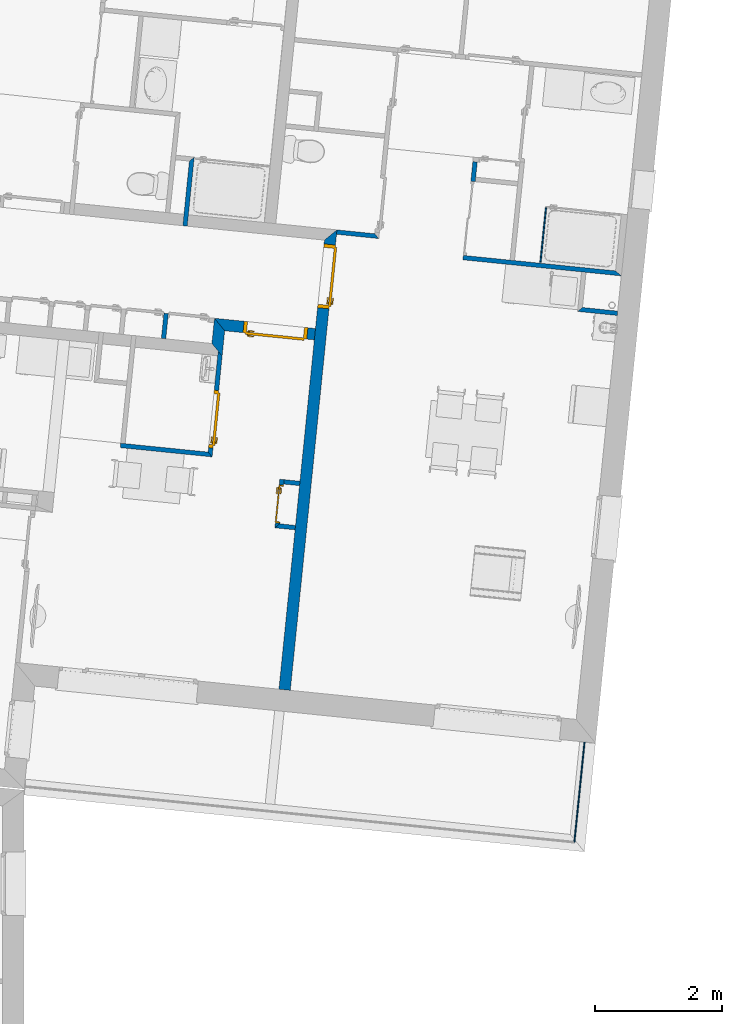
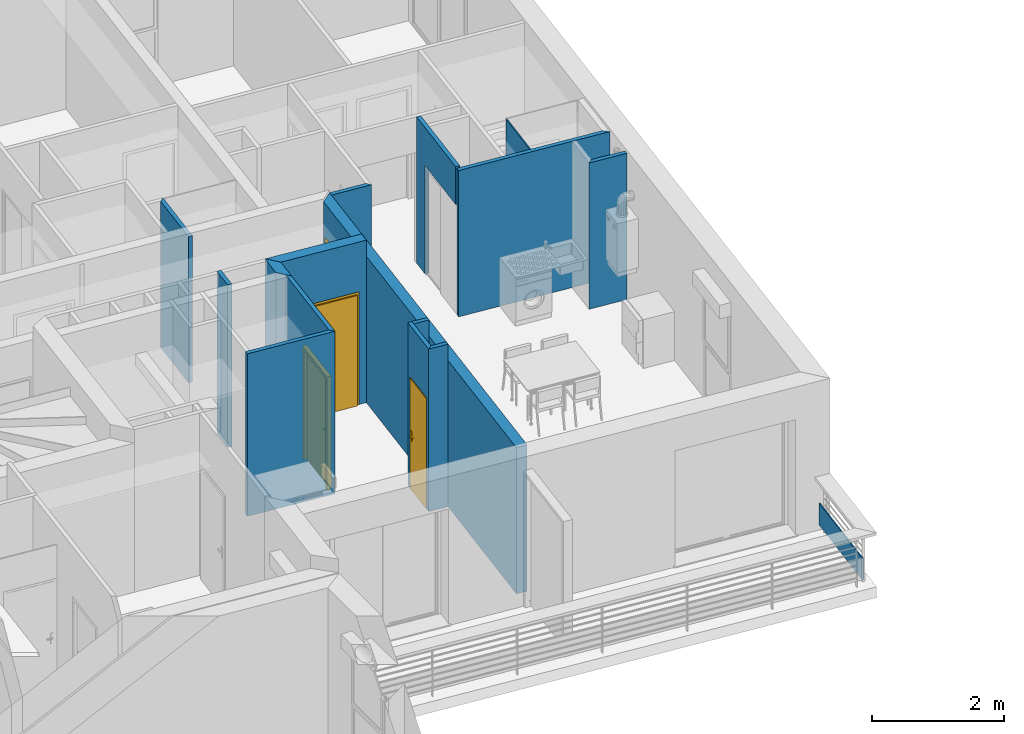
# One storey, part 55 of 164: 16 walls, 4 doors, 5 openings.
"""IFC2X3 building model written with IfcOpenShell, lengths in millimetres."""

from ifc_helpers import new_model, entity, si_unit, converted_unit, derived_unit, money_unit, direction, frame, origin_with_axes, origin_2d_with_axis, place, context, subcontext, project, spatial, polyline, rectangle, outline, extrude, faceted_brep, source, transform, mapped, material, layer, layer_set, layer_usage, type_object, element, fill, save


model = new_model("IFC2X3")

# Units and contexts
model_context = context("Model", 3, precision=0.01, world=origin_with_axes(), true_north=direction((0.0, 1.0)))
body_context = subcontext(model_context, "Body", "Model", "MODEL_VIEW")
ifc_project = project(units=[si_unit("LENGTHUNIT", "METRE", prefix="MILLI"), si_unit("AREAUNIT", "SQUARE_METRE"), si_unit("VOLUMEUNIT", "CUBIC_METRE"), converted_unit("PLANEANGLEUNIT", "DEGREE", entity("IfcPlaneAngleMeasure", 0.0174532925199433), si_unit("PLANEANGLEUNIT", "RADIAN"), dimensions=[0, 0, 0, 0, 0, 0, 0]), money_unit("USD"), converted_unit("TIMEUNIT", "Year", entity("IfcTimeMeasure", 31557600.0), si_unit("TIMEUNIT", "SECOND"), dimensions=[0, 0, 1, 0, 0, 0, 0]), si_unit("MASSUNIT", "GRAM", prefix="KILO"), si_unit("THERMODYNAMICTEMPERATUREUNIT", "DEGREE_CELSIUS"), si_unit("LUMINOUSINTENSITYUNIT", "LUMEN"), si_unit("ENERGYUNIT", "JOULE", prefix="MEGA"), derived_unit("THERMALCONDUCTANCEUNIT", [(si_unit("POWERUNIT", "WATT"), 1), (si_unit("LENGTHUNIT", "METRE"), -1), (si_unit("THERMODYNAMICTEMPERATUREUNIT", "KELVIN"), -1)]), derived_unit("SPECIFICHEATCAPACITYUNIT", [(si_unit("ENERGYUNIT", "JOULE"), 1), (si_unit("MASSUNIT", "GRAM", prefix="KILO"), -1), (si_unit("THERMODYNAMICTEMPERATUREUNIT", "KELVIN"), -1)]), derived_unit("MASSDENSITYUNIT", [(si_unit("MASSUNIT", "GRAM", prefix="KILO"), 1), (si_unit("VOLUMEUNIT", "CUBIC_METRE"), -1)])], contexts=[model_context])

# Site, building, storey
site_placement = place(None, origin_with_axes())
site = spatial("IfcSite", under=ifc_project, at=site_placement, Name="Site", CompositionType="ELEMENT")
building_placement = place(site_placement, origin_with_axes())
building = spatial("IfcBuilding", under=site, at=building_placement, Name="Bâtiment", CompositionType="ELEMENT")
storey_placement = place(building_placement, frame((0.0, 0.0, 5750.0), z_axis=(0.0, 0.0, 1.0), x_axis=(1.0, 0.0, 0.0)))
storey = spatial("IfcBuildingStorey", under=building, at=storey_placement, Name="Etage1", CompositionType="ELEMENT", Elevation=5750.0)

# Wall, opening, door
ifc_material_1 = material(Name="Parpaing 314940890")
ifc_layer_1 = layer(ifc_material_1, 180.0, ventilated="UNKNOWN")
ifc_layer_set_1 = layer_set([ifc_layer_1], Name="Beton  18 0018356637")
ifc_layer_usage_1 = layer_usage(ifc_layer_set_1, "AXIS2", "NEGATIVE", 0.0)
wall_type_1 = type_object("IfcWallType", Name="Beton  18 0018356637 180", PredefinedType="NOTDEFINED")
wall_1_placement = place(storey_placement, frame((2234581.547925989, -613207.4686264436, 0.0), z_axis=(0.0, 0.0, 1.0), x_axis=(-0.1008361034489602, -0.9949030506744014, 0.0)))
wall_1 = element("IfcWallStandardCase", 1, at=wall_1_placement, inside=storey, type_object=wall_type_1, material=ifc_layer_usage_1, Name="Mur-142", context=body_context, shape_type="SweptSolid", body=[
    extrude(outline(polyline([(179.9516873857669, -179.99999999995), (7289.65066235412, -179.99999999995), (7289.6989906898, -1.13686837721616e-10), (0.0, 0.0), (179.9516873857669, -179.99999999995)])), origin_with_axes(), (0.0, 0.0, 1.0), 2700.0),
])
opening_1_placement = place(wall_1_placement, frame((745.1280166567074, 0.0, 0.0), z_axis=(0.0, 0.0, 1.0), x_axis=(1.0, 0.0, 0.0)))
opening_1 = element("IfcOpeningElement", 2, at=opening_1_placement, cuts=wall_1, Name="Por-279", context=body_context, shape_type="SweptSolid", body=[
    extrude(rectangle(XDim=1010.00001192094, YDim=2080.0, at=origin_2d_with_axis()), frame((-5.960473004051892e-06, -179.99999999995, 1040.0), z_axis=(0.0, -1.0, 0.0), x_axis=(-1.0, 0.0, 0.0)), (0.0, 0.0, -1.0), 360.0),
])
door_style = type_object("IfcDoorStyle", Name="Porte_1v", ConstructionType="NOTDEFINED", OperationType="NOTDEFINED", ParameterTakesPrecedence=False, Sizeable=False)
shared_shape_1 = source(origin_with_axes(), body_context, "Body", "Brep", [
    faceted_brep([(-504.9999999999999, 0.0, 0.0), (-504.9999999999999, 0.0, 2080.0), (504.9999999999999, 0.0, 2080.0), (504.9999999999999, 0.0, 0.0), (464.9999999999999, 0.0, 0.0), (464.9999999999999, 0.0, 2040.0), (-464.9999999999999, 0.0, 2040.0), (-464.9999999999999, 0.0, 0.0), (-504.9999999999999, -180.0, 0.0), (-504.9999999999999, -180.0, 2080.0), (504.9999999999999, -180.0, 2080.0), (504.9999999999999, -180.0, 0.0), (449.9999999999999, -180.0, 0.0), (449.9999999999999, -15.0, 0.0), (464.9999999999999, -15.0, 0.0), (464.9999999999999, -15.0, 2040.0), (-464.9999999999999, -15.0, 2040.0), (-464.9999999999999, -15.0, 0.0), (-449.9999999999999, -15.0, 0.0), (-449.9999999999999, -180.0, 0.0), (-449.9999999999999, -180.0, 2025.0), (449.9999999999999, -180.0, 2025.0), (449.9999999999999, -15.0, 2025.0), (-449.9999999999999, -15.0, 2025.0)], [[[0, 1, 2, 3, 4, 5, 6, 7]], [[8, 9, 1, 0]], [[9, 10, 2, 1]], [[10, 11, 3, 2]], [[3, 11, 12, 13, 14, 4]], [[5, 4, 14, 15]], [[6, 5, 15, 16]], [[7, 6, 16, 17]], [[0, 7, 17, 18, 19, 8]], [[19, 20, 21, 12, 11, 10, 9, 8]], [[22, 13, 12, 21]], [[17, 16, 15, 14, 13, 22, 23, 18]], [[18, 23, 20, 19]], [[23, 22, 21, 20]]]),
    faceted_brep([(399.9999999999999, -15.0, 900.0), (399.9999999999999, -15.0, 1100.0), (439.9999999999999, -15.0, 1100.0), (439.9999999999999, -15.0, 900.0), (399.9999999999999, -25.0, 900.0), (399.9999999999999, -25.0, 1100.0), (439.9999999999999, -25.0, 1100.0), (439.9999999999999, -25.0, 900.0)], [[[0, 1, 2, 3]], [[0, 4, 5, 1]], [[1, 5, 6, 2]], [[2, 6, 7, 3]], [[3, 7, 4, 0]], [[7, 6, 5, 4]]]),
    faceted_brep([(329.9999999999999, -25.0, 1000.0), (329.9999999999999, -25.0, 1020.0), (429.9999999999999, -25.0, 1020.0), (429.9999999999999, -25.0, 1000.0), (329.9999999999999, -44.99999999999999, 1000.0), (329.9999999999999, -44.99999999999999, 1020.0), (429.9999999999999, -44.99999999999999, 1020.0), (429.9999999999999, -44.99999999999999, 1000.0)], [[[0, 1, 2, 3]], [[0, 4, 5, 1]], [[1, 5, 6, 2]], [[2, 6, 7, 3]], [[3, 7, 4, 0]], [[7, 6, 5, 4]]]),
    faceted_brep([(399.9999999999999, 34.99999999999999, 900.0), (399.9999999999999, 34.99999999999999, 1100.0), (439.9999999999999, 34.99999999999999, 1100.0), (439.9999999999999, 34.99999999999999, 900.0), (399.9999999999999, 25.0, 900.0), (399.9999999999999, 25.0, 1100.0), (439.9999999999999, 25.0, 1100.0), (439.9999999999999, 25.0, 900.0)], [[[0, 1, 2, 3]], [[0, 4, 5, 1]], [[1, 5, 6, 2]], [[2, 6, 7, 3]], [[3, 7, 4, 0]], [[7, 6, 5, 4]]]),
    faceted_brep([(329.9999999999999, 55.0, 1000.0), (329.9999999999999, 55.0, 1020.0), (429.9999999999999, 55.0, 1020.0), (429.9999999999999, 55.0, 1000.0), (329.9999999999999, 34.99999999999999, 1000.0), (329.9999999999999, 34.99999999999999, 1020.0), (429.9999999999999, 34.99999999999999, 1020.0), (429.9999999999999, 34.99999999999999, 1000.0)], [[[0, 1, 2, 3]], [[0, 4, 5, 1]], [[1, 5, 6, 2]], [[2, 6, 7, 3]], [[3, 7, 4, 0]], [[7, 6, 5, 4]]]),
    faceted_brep([(464.9999999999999, 25.0, 0.0), (464.9999999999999, -15.0, 0.0), (-464.9999999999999, -15.0, 0.0), (-464.9999999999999, 25.0, 0.0), (464.9999999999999, 25.0, 2040.0), (464.9999999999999, -15.0, 2040.0), (-464.9999999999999, -15.0, 2040.0), (-464.9999999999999, 25.0, 2040.0)], [[[0, 1, 2, 3]], [[4, 5, 1, 0]], [[1, 5, 6, 2]], [[3, 2, 6, 7]], [[0, 3, 7, 4]], [[7, 6, 5, 4]]]),
])
door_1_placement = place(opening_1_placement, frame((-465.0000000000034, 0.0, 0.0), z_axis=(0.0, 0.0, 1.0), x_axis=(1.0, 0.0, 0.0)))
door_1 = element("IfcDoor", 3, at=door_1_placement, inside=storey, type_object=door_style, Name="Por-279", OverallHeight=2040.0, OverallWidth=930.0, context=body_context, shape_type="MappedRepresentation", body=[
    mapped(shared_shape_1, transform((464.9999999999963, 1.13686837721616e-10, 0.0))),
])
fill(opening_1, door_1)

# Wall
ifc_layer_usage_2 = layer_usage(ifc_layer_set_1, "AXIS2", "NEGATIVE", 0.0)
wall_2_placement = place(storey_placement, frame((2232611.91833897, -614997.468755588, 0.0), z_axis=(0.0, 0.0, 1.0), x_axis=(0.1011032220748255, 0.9948759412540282, 0.0)))
element("IfcWallStandardCase", 4, at=wall_2_placement, inside=storey, type_object=wall_type_1, material=ifc_layer_usage_2, Name="Mur-142", context=body_context, shape_type="SweptSolid", body=[
    extrude(outline(polyline([(-179.9516887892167, -180.0000000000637), (219.9639479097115, -179.99999999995), (399.9639479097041, 0.0), (0.0, 0.0), (-179.9516887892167, -180.0000000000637)])), origin_with_axes(), (0.0, 0.0, 1.0), 3000.0),
])

# Wall, opening, door
ifc_layer_usage_3 = layer_usage(ifc_layer_set_1, "AXIS2", "NEGATIVE", 0.0)
wall_3_placement = place(storey_placement, frame((2232652.355982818, -614599.5542464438, 0.0), z_axis=(0.0, 0.0, 1.0), x_axis=(0.9948759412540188, -0.1011032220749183, 0.0)))
wall_3 = element("IfcWallStandardCase", 5, at=wall_3_placement, inside=storey, type_object=wall_type_1, material=ifc_layer_usage_3, Name="Mur-142", context=body_context, shape_type="SweptSolid", body=[
    extrude(outline(polyline([(179.99999999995, -179.9999999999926), (1599.034845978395, -179.9999999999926), (1598.986517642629, 0.0), (-1.13686837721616e-10, 0.0), (179.99999999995, -179.9999999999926)])), origin_with_axes(), (0.0, 0.0, 1.0), 3000.0),
])
opening_2_placement = place(wall_3_placement, frame((974.396814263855, 0.0, 0.0), z_axis=(0.0, 0.0, 1.0), x_axis=(1.0, 0.0, 0.0)))
opening_2 = element("IfcOpeningElement", 6, at=opening_2_placement, cuts=wall_3, Name="Por-279", context=body_context, shape_type="SweptSolid", body=[
    extrude(rectangle(XDim=1010.00001192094, YDim=2080.0, at=origin_2d_with_axis()), frame((5.960373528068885e-06, 180.0000000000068, 1040.0), z_axis=(0.0, 1.0, 0.0), x_axis=(1.0, 0.0, 0.0)), (0.0, 0.0, -1.0), 360.0),
])
door_2_placement = place(opening_2_placement, frame((464.9999999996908, 0.0, 0.0), z_axis=(0.0, 0.0, 1.0), x_axis=(-1.0, 0.0, 0.0)))
door_2 = element("IfcDoor", 7, at=door_2_placement, inside=storey, type_object=door_style, Name="Por-279", OverallHeight=2040.0, OverallWidth=930.0, context=body_context, shape_type="MappedRepresentation", body=[
    mapped(shared_shape_1, transform((465.0000000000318, 180.0000000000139, 0.0))),
])
fill(opening_2, door_2)

ifc_material_2 = material(Name="Hachure solide 268963992")
ifc_layer_2 = layer(ifc_material_2, 70.0, ventilated="UNKNOWN")
ifc_layer_set_2 = layer_set([ifc_layer_2], Name="Cloison 70 0826278243")
ifc_layer_usage_4 = layer_usage(ifc_layer_set_2, "AXIS2", "NEGATIVE", 0.0)
wall_type_2 = type_object("IfcWallType", Name="Cloison 70 0826278243 70", PredefinedType="NOTDEFINED")
wall_4_placement = place(storey_placement, frame((2233750.635914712, -617141.1380950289, 0.0), z_axis=(0.0, 0.0, 1.0), x_axis=(-0.1005375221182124, -0.9949332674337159, 0.0)))
wall_4 = element("IfcWallStandardCase", 8, at=wall_4_placement, inside=storey, type_object=wall_type_2, material=ifc_layer_usage_4, Name="Mur-153", context=body_context, shape_type="SweptSolid", body=[
    extrude(outline(polyline([(0.0, -70.00000000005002), (769.6332433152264, -69.99999999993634), (699.6332433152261, 0.0), (0.0, 0.0), (0.0, -70.00000000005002)])), origin_with_axes(), (0.0, 0.0, 1.0), 3000.0),
])
opening_3_placement = place(wall_4_placement, frame((388.1226217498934, 1.13686837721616e-10, 0.0), z_axis=(0.0, 0.0, 1.0), x_axis=(1.0, 0.0, 0.0)))
opening_3 = element("IfcOpeningElement", 9, at=opening_3_placement, cuts=wall_4, Name="Por-274", context=body_context, shape_type="SweptSolid", body=[
    extrude(rectangle(XDim=599.9999999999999, YDim=2050.0, at=origin_2d_with_axis()), frame((0.0, 70.00000000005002, 1025.0), z_axis=(0.0, 1.0, 0.0), x_axis=(1.0, 0.0, 0.0)), (0.0, 0.0, -1.0), 140.0),
])
shared_shape_2 = source(origin_with_axes(), body_context, "Body", "Brep", [
    faceted_brep([(-300.0, 0.0, 0.0), (-300.0, 0.0, 2050.0), (300.0, 0.0, 2050.0), (300.0, 0.0, 0.0), (290.0, 0.0, 0.0), (290.0, 0.0, 2040.0), (-290.0, 0.0, 2040.0), (-290.0, 0.0, 0.0), (-300.0, -70.0, 0.0), (-300.0, -70.0, 2050.0), (300.0, -70.0, 2050.0), (300.0, -70.0, 0.0), (279.9999999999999, -70.0, 0.0), (279.9999999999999, -15.0, 0.0), (290.0, -15.0, 0.0), (290.0, -15.0, 2040.0), (-290.0, -15.0, 2040.0), (-290.0, -15.0, 0.0), (-279.9999999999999, -15.0, 0.0), (-279.9999999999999, -70.0, 0.0), (-279.9999999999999, -70.0, 2030.0), (279.9999999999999, -70.0, 2030.0), (279.9999999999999, -15.0, 2030.0), (-279.9999999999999, -15.0, 2030.0)], [[[0, 1, 2, 3, 4, 5, 6, 7]], [[8, 9, 1, 0]], [[9, 10, 2, 1]], [[10, 11, 3, 2]], [[3, 11, 12, 13, 14, 4]], [[5, 4, 14, 15]], [[6, 5, 15, 16]], [[7, 6, 16, 17]], [[0, 7, 17, 18, 19, 8]], [[19, 20, 21, 12, 11, 10, 9, 8]], [[22, 13, 12, 21]], [[17, 16, 15, 14, 13, 22, 23, 18]], [[18, 23, 20, 19]], [[23, 22, 21, 20]]]),
    faceted_brep([(224.9999999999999, -15.0, 900.0), (224.9999999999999, -15.0, 1100.0), (264.9999999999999, -15.0, 1100.0), (264.9999999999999, -15.0, 900.0), (224.9999999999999, -25.0, 900.0), (224.9999999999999, -25.0, 1100.0), (264.9999999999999, -25.0, 1100.0), (264.9999999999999, -25.0, 900.0)], [[[0, 1, 2, 3]], [[0, 4, 5, 1]], [[1, 5, 6, 2]], [[2, 6, 7, 3]], [[3, 7, 4, 0]], [[7, 6, 5, 4]]]),
    faceted_brep([(154.9999999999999, -25.0, 1000.0), (154.9999999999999, -25.0, 1020.0), (254.9999999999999, -25.0, 1020.0), (254.9999999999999, -25.0, 1000.0), (154.9999999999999, -45.0, 1000.0), (154.9999999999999, -45.0, 1020.0), (254.9999999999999, -45.0, 1020.0), (254.9999999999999, -45.0, 1000.0)], [[[0, 1, 2, 3]], [[0, 4, 5, 1]], [[1, 5, 6, 2]], [[2, 6, 7, 3]], [[3, 7, 4, 0]], [[7, 6, 5, 4]]]),
    faceted_brep([(224.9999999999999, 15.0, 900.0), (224.9999999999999, 15.0, 1100.0), (264.9999999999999, 15.0, 1100.0), (264.9999999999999, 15.0, 900.0), (224.9999999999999, 5.000000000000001, 900.0), (224.9999999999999, 5.000000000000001, 1100.0), (264.9999999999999, 5.000000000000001, 1100.0), (264.9999999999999, 5.000000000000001, 900.0)], [[[0, 1, 2, 3]], [[0, 4, 5, 1]], [[1, 5, 6, 2]], [[2, 6, 7, 3]], [[3, 7, 4, 0]], [[7, 6, 5, 4]]]),
    faceted_brep([(154.9999999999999, 35.0, 1000.0), (154.9999999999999, 35.0, 1020.0), (254.9999999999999, 35.0, 1020.0), (254.9999999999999, 35.0, 1000.0), (154.9999999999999, 15.0, 1000.0), (154.9999999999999, 15.0, 1020.0), (254.9999999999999, 15.0, 1020.0), (254.9999999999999, 15.0, 1000.0)], [[[0, 1, 2, 3]], [[0, 4, 5, 1]], [[1, 5, 6, 2]], [[2, 6, 7, 3]], [[3, 7, 4, 0]], [[7, 6, 5, 4]]]),
    faceted_brep([(290.0, 5.000000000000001, 0.0), (290.0, -15.0, 0.0), (-290.0, -15.0, 0.0), (-290.0, 5.000000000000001, 0.0), (290.0, 5.000000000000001, 2040.0), (290.0, -15.0, 2040.0), (-290.0, -15.0, 2040.0), (-290.0, 5.000000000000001, 2040.0)], [[[0, 1, 2, 3]], [[4, 5, 1, 0]], [[1, 5, 6, 2]], [[3, 2, 6, 7]], [[0, 3, 7, 4]], [[7, 6, 5, 4]]]),
])
door_3_placement = place(opening_3_placement, frame((289.9999999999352, 3.410605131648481e-10, 0.0), z_axis=(0.0, 0.0, 1.0), x_axis=(-1.0, 0.0, 0.0)))
door_3 = element("IfcDoor", 10, at=door_3_placement, inside=storey, type_object=door_style, Name="Por-274", OverallHeight=2040.0, OverallWidth=580.0, context=body_context, shape_type="MappedRepresentation", body=[
    mapped(shared_shape_2, transform((289.9999999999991, 70.00000000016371, 0.0))),
])
fill(opening_3, door_3)

# Walls
ifc_layer_usage_5 = layer_usage(ifc_layer_set_2, "AXIS2", "NEGATIVE", 70.0)
wall_5_placement = place(storey_placement, frame((2238370.880852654, -614492.3648829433, 0.0), z_axis=(0.0, 0.0, 1.0), x_axis=(0.9948759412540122, -0.1011032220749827, 0.0)))
element("IfcWallStandardCase", 11, at=wall_5_placement, inside=storey, type_object=wall_type_2, material=ifc_layer_usage_5, Name="Mur-149", context=body_context, shape_type="SweptSolid", body=[
    extrude(outline(polyline([(0.0, 0.0), (628.051133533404, 0.0), (628.0511335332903, 69.99999999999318), (70.00000000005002, 69.99999999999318), (0.0, 0.0)])), origin_with_axes(), (0.0, 0.0, 1.0), 2700.0),
])
ifc_layer_usage_6 = layer_usage(ifc_layer_set_2, "AXIS2", "POSITIVE", 0.0)
wall_6_placement = place(storey_placement, frame((2234107.929832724, -617880.438621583, 0.0), z_axis=(0.0, 0.0, 1.0), x_axis=(-0.9949332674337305, 0.1005375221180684, 0.0)))
element("IfcWallStandardCase", 12, at=wall_6_placement, inside=storey, type_object=wall_type_2, material=ifc_layer_usage_6, Name="Mur-153", context=body_context, shape_type="SweptSolid", body=[
    extrude(outline(polyline([(180.0000081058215, 0.0), (429.8110483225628, 0.0), (499.8110483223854, 70.00000000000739), (180.0210155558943, 70.00000000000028), (180.0000081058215, 0.0)])), origin_with_axes(), (0.0, 0.0, 1.0), 3000.0),
])

# Wall, opening, door
ifc_layer_usage_7 = layer_usage(ifc_layer_set_2, "AXIS2", "POSITIVE", 0.0)
wall_7_placement = place(storey_placement, frame((2232614.721856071, -616783.5480499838, 0.0), z_axis=(0.0, 0.0, 1.0), x_axis=(0.09907908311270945, 0.9950795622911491, 0.0)))
wall_7 = element("IfcWallStandardCase", 13, at=wall_7_placement, inside=storey, type_object=wall_type_2, material=ifc_layer_usage_7, Name="Mur-121", context=body_context, shape_type="SweptSolid", body=[
    extrude(outline(polyline([(0.0, 0.0), (1655.328142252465, 0.0), (1655.328142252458, 70.00000000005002), (70.10679074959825, 70.00000000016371), (0.0, 0.0)])), origin_with_axes(), (0.0, 0.0, 1.0), 3000.0),
])
opening_4_placement = place(wall_7_placement, frame((595.1066172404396, -1.13686837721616e-10, 0.0), z_axis=(0.0, 0.0, 1.0), x_axis=(1.0, 0.0, 0.0)))
opening_4 = element("IfcOpeningElement", 14, at=opening_4_placement, cuts=wall_7, Name="Por-278", context=body_context, shape_type="SweptSolid", body=[
    extrude(rectangle(XDim=910.0, YDim=2080.0, at=origin_2d_with_axis()), frame((0.0, 70.00000000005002, 1040.0), z_axis=(0.0, 1.0, 0.0), x_axis=(1.0, 0.0, 0.0)), (0.0, 0.0, -1.0), 140.0),
])
shared_shape_3 = source(origin_with_axes(), body_context, "Body", "Brep", [
    faceted_brep([(-454.9999999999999, 0.0, 0.0), (-454.9999999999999, 0.0, 2080.0), (454.9999999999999, 0.0, 2080.0), (454.9999999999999, 0.0, 0.0), (414.9999999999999, 0.0, 0.0), (414.9999999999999, 0.0, 2040.0), (-414.9999999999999, 0.0, 2040.0), (-414.9999999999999, 0.0, 0.0), (-454.9999999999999, -69.99999999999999, 0.0), (-454.9999999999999, -69.99999999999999, 2080.0), (454.9999999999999, -69.99999999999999, 2080.0), (454.9999999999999, -69.99999999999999, 0.0), (399.9999999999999, -69.99999999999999, 0.0), (399.9999999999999, -15.0, 0.0), (414.9999999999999, -15.0, 0.0), (414.9999999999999, -15.0, 2040.0), (-414.9999999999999, -14.99999999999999, 2040.0), (-414.9999999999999, -14.99999999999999, 0.0), (-399.9999999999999, -14.99999999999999, 0.0), (-399.9999999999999, -69.99999999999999, 0.0), (-399.9999999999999, -69.99999999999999, 2025.0), (399.9999999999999, -69.99999999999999, 2025.0), (399.9999999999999, -15.0, 2025.0), (-399.9999999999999, -14.99999999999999, 2025.0)], [[[0, 1, 2, 3, 4, 5, 6, 7]], [[8, 9, 1, 0]], [[9, 10, 2, 1]], [[10, 11, 3, 2]], [[3, 11, 12, 13, 14, 4]], [[5, 4, 14, 15]], [[6, 5, 15, 16]], [[7, 6, 16, 17]], [[0, 7, 17, 18, 19, 8]], [[19, 20, 21, 12, 11, 10, 9, 8]], [[22, 13, 12, 21]], [[17, 16, 15, 14, 13, 22, 23, 18]], [[18, 23, 20, 19]], [[23, 22, 21, 20]]]),
    faceted_brep([(350.0, -15.0, 900.0), (350.0, -15.0, 1100.0), (389.9999999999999, -15.0, 1100.0), (389.9999999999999, -15.0, 900.0), (350.0, -25.0, 900.0), (350.0, -25.0, 1100.0), (389.9999999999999, -25.0, 1100.0), (389.9999999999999, -25.0, 900.0)], [[[0, 1, 2, 3]], [[0, 4, 5, 1]], [[1, 5, 6, 2]], [[2, 6, 7, 3]], [[3, 7, 4, 0]], [[7, 6, 5, 4]]]),
    faceted_brep([(279.9999999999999, -25.0, 1000.0), (279.9999999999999, -25.0, 1020.0), (379.9999999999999, -25.0, 1020.0), (379.9999999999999, -25.0, 1000.0), (279.9999999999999, -45.0, 1000.0), (279.9999999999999, -45.0, 1020.0), (379.9999999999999, -45.0, 1020.0), (379.9999999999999, -45.0, 1000.0)], [[[0, 1, 2, 3]], [[0, 4, 5, 1]], [[1, 5, 6, 2]], [[2, 6, 7, 3]], [[3, 7, 4, 0]], [[7, 6, 5, 4]]]),
    faceted_brep([(350.0, 34.99999999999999, 900.0), (350.0, 34.99999999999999, 1100.0), (389.9999999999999, 34.99999999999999, 1100.0), (389.9999999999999, 34.99999999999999, 900.0), (350.0, 24.99999999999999, 900.0), (350.0, 24.99999999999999, 1100.0), (389.9999999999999, 24.99999999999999, 1100.0), (389.9999999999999, 24.99999999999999, 900.0)], [[[0, 1, 2, 3]], [[0, 4, 5, 1]], [[1, 5, 6, 2]], [[2, 6, 7, 3]], [[3, 7, 4, 0]], [[7, 6, 5, 4]]]),
    faceted_brep([(279.9999999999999, 54.99999999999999, 1000.0), (279.9999999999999, 54.99999999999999, 1020.0), (379.9999999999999, 54.99999999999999, 1020.0), (379.9999999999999, 54.99999999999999, 1000.0), (279.9999999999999, 34.99999999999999, 1000.0), (279.9999999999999, 34.99999999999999, 1020.0), (379.9999999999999, 34.99999999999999, 1020.0), (379.9999999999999, 34.99999999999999, 1000.0)], [[[0, 1, 2, 3]], [[0, 4, 5, 1]], [[1, 5, 6, 2]], [[2, 6, 7, 3]], [[3, 7, 4, 0]], [[7, 6, 5, 4]]]),
    faceted_brep([(414.9999999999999, 24.99999999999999, 0.0), (414.9999999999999, -15.0, 0.0), (-414.9999999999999, -14.99999999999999, 0.0), (-414.9999999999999, 25.0, 0.0), (414.9999999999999, 24.99999999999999, 2040.0), (414.9999999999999, -15.0, 2040.0), (-414.9999999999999, -14.99999999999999, 2040.0), (-414.9999999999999, 25.0, 2040.0)], [[[0, 1, 2, 3]], [[4, 5, 1, 0]], [[1, 5, 6, 2]], [[3, 2, 6, 7]], [[0, 3, 7, 4]], [[7, 6, 5, 4]]]),
])
door_4_placement = place(opening_4_placement, frame((414.9999999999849, 2.273736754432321e-10, 0.0), z_axis=(0.0, 0.0, 1.0), x_axis=(-1.0, 0.0, 0.0)))
door_4 = element("IfcDoor", 15, at=door_4_placement, inside=storey, type_object=door_style, Name="Por-278", OverallHeight=2040.0, OverallWidth=830.0, context=body_context, shape_type="MappedRepresentation", body=[
    mapped(shared_shape_3, transform((414.999999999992, 0.0, 0.0))),
])
fill(opening_4, door_4)

# Walls
ifc_layer_usage_8 = layer_usage(ifc_layer_set_2, "AXIS2", "NEGATIVE", 0.0)
wall_8_placement = place(storey_placement, frame((2236571.938492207, -613609.4526399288, 0.0), z_axis=(0.0, 0.0, 1.0), x_axis=(0.9948766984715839, -0.1010957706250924, 0.0)))
element("IfcWallStandardCase", 16, at=wall_8_placement, inside=storey, type_object=wall_type_2, material=ifc_layer_usage_8, Name="Mur-153", context=body_context, shape_type="SweptSolid", body=[
    extrude(outline(polyline([(-1.13686837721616e-10, -69.99999999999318), (2509.307942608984, -70.00000000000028), (2409.317787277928, 0.0), (0.0, 0.0), (-1.13686837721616e-10, -69.99999999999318)])), origin_with_axes(), (0.0, 0.0, 1.0), 2700.0),
])
ifc_layer_usage_9 = layer_usage(ifc_layer_set_2, "AXIS2", "NEGATIVE", 70.0)
wall_9_placement = place(storey_placement, frame((2235176.883858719, -613267.9689967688, 0.0), z_axis=(0.0, 0.0, 1.0), x_axis=(-0.9948759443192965, 0.1011031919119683, 0.0)))
element("IfcWallStandardCase", 17, at=wall_9_placement, inside=storey, type_object=wall_type_2, material=ifc_layer_usage_9, Name="Mur-149", context=body_context, shape_type="SweptSolid", body=[
    extrude(outline(polyline([(-1.13686837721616e-10, 0.0), (598.40217881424, 0.0), (598.3833865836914, 69.99999999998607), (-70.0000014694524, 70.00000000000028), (-1.13686837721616e-10, 0.0)])), origin_with_axes(), (0.0, 0.0, 1.0), 2700.0),
])

# Wall, opening
ifc_layer_usage_10 = layer_usage(ifc_layer_set_2, "AXIS2", "NEGATIVE", 0.0)
wall_10_placement = place(storey_placement, frame((2236575.971936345, -613569.6565179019, 0.0), z_axis=(0.0, 0.0, 1.0), x_axis=(0.1008361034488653, 0.9949030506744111, 0.0)))
wall_10 = element("IfcWallStandardCase", 18, at=wall_10_placement, inside=storey, type_object=wall_type_2, material=ifc_layer_usage_10, Name="Mur-153", context=body_context, shape_type="SweptSolid", body=[
    extrude(outline(polyline([(0.0, -70.00000000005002), (1445.5076279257, -69.99999999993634), (1445.5076279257, 1.13686837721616e-10), (0.0, 0.0), (0.0, -70.00000000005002)])), origin_with_axes(), (0.0, 0.0, 1.0), 2700.0),
])
opening_5_placement = place(wall_10_placement, frame((547.2712556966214, 0.0, 0.0), z_axis=(0.0, 0.0, 1.0), x_axis=(1.0, 0.0, 0.0)))
element("IfcOpeningElement", 19, at=opening_5_placement, cuts=wall_10, Name="Por-254", context=body_context, shape_type="SweptSolid", body=[
    extrude(rectangle(XDim=1174.542511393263, YDim=2000.0, at=origin_2d_with_axis()), frame((0.0, -1.13686837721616e-10, 1000.0), z_axis=(0.0, -1.0, 0.0), x_axis=(1.0, 0.0, 0.0)), (0.0, 0.0, -1.0), 70.0),
    extrude(rectangle(XDim=1174.542511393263, YDim=2000.0, at=origin_2d_with_axis()), frame((0.0, 0.0, 1000.0), z_axis=(0.0, 1.0, 0.0), x_axis=(1.0, 0.0, 0.0)), (0.0, 0.0, -1.0), 70.0),
])

# Walls
ifc_layer_usage_11 = layer_usage(ifc_layer_set_2, "AXIS2", "NEGATIVE", 0.0)
wall_11_placement = place(storey_placement, frame((2234171.419598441, -617254.0145587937, 0.0), z_axis=(0.0, 0.0, 1.0), x_axis=(-0.994933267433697, 0.1005375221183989, 0.0)))
element("IfcWallStandardCase", 20, at=wall_11_placement, inside=storey, type_object=wall_type_2, material=ifc_layer_usage_11, Name="Mur-153", context=body_context, shape_type="SweptSolid", body=[
    extrude(outline(polyline([(179.9790006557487, -69.99999999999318), (430.0000053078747, -69.99999999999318), (430.0000053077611, 0.0), (180.0000081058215, 0.0), (179.9790006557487, -69.99999999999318)])), origin_with_axes(), (0.0, 0.0, 1.0), 3000.0),
])
ifc_layer_usage_12 = layer_usage(ifc_layer_set_2, "AXIS2", "NEGATIVE", 0.0)
wall_12_placement = place(storey_placement, frame((2231816.092435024, -614915.8498374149, 0.0), z_axis=(0.0, 0.0, 1.0), x_axis=(0.1011032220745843, 0.9948759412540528, 0.0)))
element("IfcWallStandardCase", 21, at=wall_12_placement, inside=storey, type_object=wall_type_2, material=ifc_layer_usage_12, Name="Mur-121", context=body_context, shape_type="SweptSolid", body=[
    extrude(outline(polyline([(0.0, -70.00000000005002), (399.2769462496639, -70.00000000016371), (399.2769462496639, -1.13686837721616e-10), (0.0, 0.0), (0.0, -70.00000000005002)])), origin_with_axes(), (0.0, 0.0, 1.0), 3000.0),
])
ifc_material_3 = material(Name="MANQUANT")
ifc_layer_3 = layer(ifc_material_3, 20.0, ventilated="UNKNOWN")
ifc_layer_set_3 = layer_set([ifc_layer_3], Name="MANQUANT 20")
ifc_layer_usage_13 = layer_usage(ifc_layer_set_3, "AXIS2", "NEGATIVE", 20.0)
wall_type_3 = type_object("IfcWallType", Name="MANQUANT 20", PredefinedType="NOTDEFINED")
wall_13_placement = place(storey_placement, frame((2238329.506491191, -622861.6132598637, 99.99999999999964), z_axis=(0.0, 0.0, 1.0), x_axis=(0.1008361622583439, 0.9949030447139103, 0.0)))
element("IfcWallStandardCase", 22, at=wall_13_placement, inside=storey, type_object=wall_type_3, material=ifc_layer_usage_13, Name="Mur-163", context=body_context, shape_type="SweptSolid", body=[
    extrude(outline(polyline([(0.0, 0.0), (1591.300265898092, 0.0), (1591.300265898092, 19.99999999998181), (20.00000000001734, 19.99999999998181), (0.0, 0.0)])), origin_with_axes(), (0.0, 0.0, 1.0), 400.0),
])
ifc_material_4 = material(Name="Hachure solide 269229667")
ifc_layer_4 = layer(ifc_material_4, 70.0, ventilated="UNKNOWN")
ifc_layer_set_4 = layer_set([ifc_layer_4], Name="Cloison 70 0836576958")
ifc_layer_usage_14 = layer_usage(ifc_layer_set_4, "AXIS2", "POSITIVE", 0.0)
wall_type_4 = type_object("IfcWallType", Name="Cloison 70 0836576958 70", PredefinedType="NOTDEFINED")
wall_14_placement = place(storey_placement, frame((2231168.039805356, -616637.2758026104, 0.0), z_axis=(0.0, 0.0, 1.0), x_axis=(0.9949273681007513, -0.1005958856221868, 0.0)))
element("IfcWallStandardCase", 23, at=wall_14_placement, inside=storey, type_object=wall_type_4, material=ifc_layer_usage_14, Name="Mur-148", context=body_context, shape_type="SweptSolid", body=[
    extrude(outline(polyline([(0.0, 0.0), (1454.057951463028, 0.0), (1383.951160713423, 69.99999999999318), (0.0, 69.99999999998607), (0.0, 0.0)])), origin_with_axes(), (0.0, 0.0, 1.0), 3000.0),
])
ifc_material_5 = material(Name="Empty Fill 292498448")
ifc_layer_5 = layer(ifc_material_5, 20.0, ventilated="UNKNOWN")
ifc_layer_set_5 = layer_set([ifc_layer_5], Name="mur 2cm")
ifc_layer_usage_15 = layer_usage(ifc_layer_set_5, "AXIS2", "POSITIVE", -20.0)
wall_type_5 = type_object("IfcWallType", Name="mur 2cm 20", PredefinedType="NOTDEFINED")
wall_15_placement = place(storey_placement, frame((2237776.348225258, -613719.0517909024, 0.0), z_axis=(0.0, 0.0, 1.0), x_axis=(0.1012059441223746, 0.9948654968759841, 0.0)))
element("IfcWallStandardCase", 24, at=wall_15_placement, inside=storey, type_object=wall_type_5, material=ifc_layer_usage_15, Name="Mur-148", context=body_context, shape_type="SweptSolid", body=[
    extrude(outline(polyline([(0.0, -20.0000000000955), (867.4464606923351, -20.0000000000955), (867.4464606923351, -1.13686837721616e-10), (0.0, 0.0), (0.0, -20.0000000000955)])), origin_with_axes(), (0.0, 0.0, 1.0), 2700.0),
])
ifc_material_6 = material(Name="Vide 288701167")
ifc_layer_6 = layer(ifc_material_6, 70.0, ventilated="UNKNOWN")
ifc_layer_set_6 = layer_set([ifc_layer_6], Name="Cloison 7 0826278243")
ifc_layer_usage_16 = layer_usage(ifc_layer_set_6, "AXIS2", "NEGATIVE", 0.0)
wall_type_6 = type_object("IfcWallType", Name="Cloison 7 0826278243 70", PredefinedType="NOTDEFINED")
wall_16_placement = place(storey_placement, frame((2232333.966737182, -612061.9309812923, 0.0), z_axis=(0.0, 0.0, 1.0), x_axis=(-0.1011878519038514, -0.994867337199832, 0.0)))
element("IfcWallStandardCase", 25, at=wall_16_placement, inside=storey, type_object=wall_type_6, material=ifc_layer_usage_16, Name="Mur-148", context=body_context, shape_type="SweptSolid", body=[
    extrude(outline(polyline([(69.99999461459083, -70.00000000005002), (1092.430110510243, -70.00000000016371), (1092.430110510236, 0.0), (0.0, 0.0), (69.99999461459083, -70.00000000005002)])), origin_with_axes(), (0.0, 0.0, 1.0), 2700.0),
])

save(model, "model.ifc")
